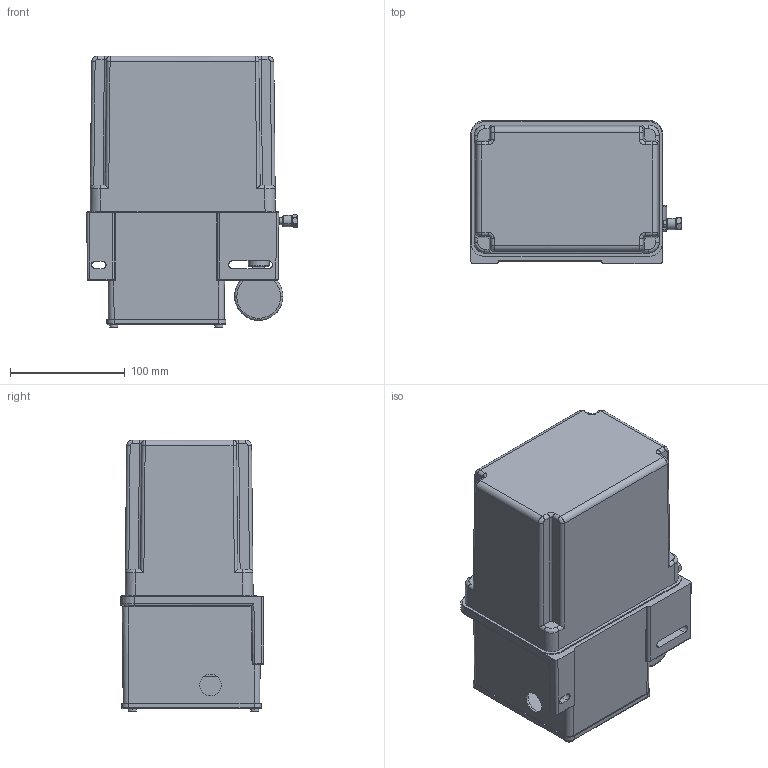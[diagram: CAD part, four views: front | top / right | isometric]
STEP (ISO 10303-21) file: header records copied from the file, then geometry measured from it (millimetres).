
FILE_DESCRIPTION (( 'STEP AP203' ), '1' );
FILE_NAME ('ADL不带控制抵坑式2L.STEP', '2020-04-13T03:24:59', ( '个人用户' ), ( '微软中国' ), 'SwSTEP 2.0', 'SolidWorks 2018', '' );
FILE_SCHEMA (( 'CONFIG_CONTROL_DESIGN' ));
Products named in the file (1): ADL祥湍諷秶萋諧宒2L
Bounding box: 183.14 x 124.44 x 236.32 mm (x, y, z)
Surface area: 233324.1 mm2 (no closed solid volume)
Topology: 0 solids, 32 shells, 768 faces, 2502 edges, 1736 vertices
Faces by surface type: plane 348, cylinder 219, bspline 125, cone 64, sphere 12
Entity records: 38107 total; most frequent: CARTESIAN_POINT 17799, ORIENTED_EDGE 4140, DIRECTION 3719, EDGE_CURVE 2484, VERTEX_POINT 1736, VECTOR 1359, LINE 1359, AXIS2_PLACEMENT_3D 1180
